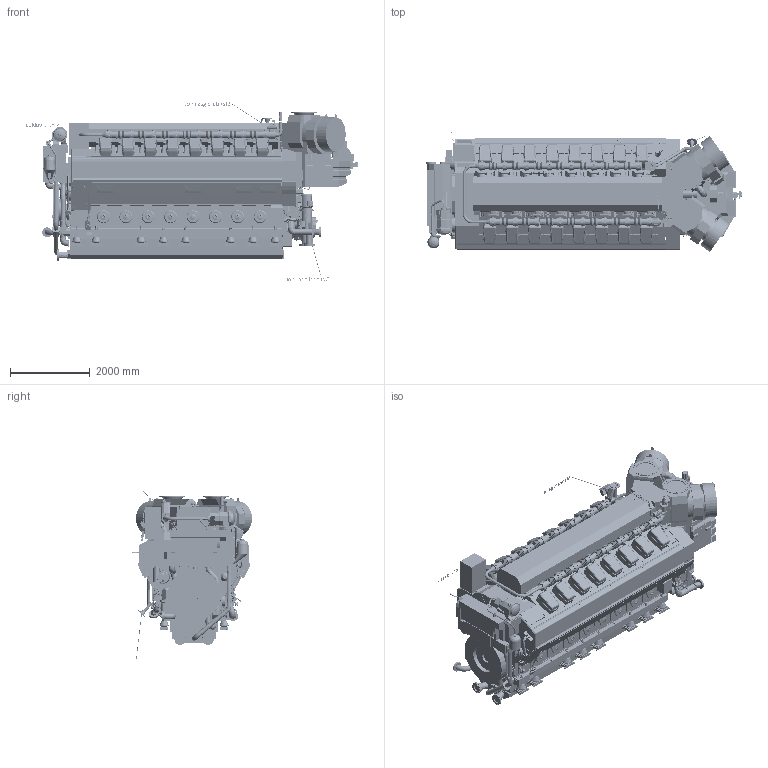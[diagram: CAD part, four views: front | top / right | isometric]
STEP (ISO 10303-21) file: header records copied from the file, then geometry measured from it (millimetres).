
FILE_DESCRIPTION(/* description */ (''),/* implementation_level */ '2;1');
FILE_NAME(/* name */ 'DAAF380017_A.stp',/* time_stamp */ '2022-01-12T13:51:49+02:00',/* author */ (''),/* organization */ (''),/* preprocessor_version */ 'ST-DEVELOPER v16.7',/* originating_system */ 'SIEMENS PLM Software NX 1915',/* authorisation */ '');
FILE_SCHEMA (('AUTOMOTIVE_DESIGN { 1 0 10303 214 3 1 1 1 }'));
Products named in the file (90): 001240134-A_STEEL PLATE; 001240134--_STEEL PLATE; PAAF090577--_OIL PIPE; PAAF093834--_LT-WATER SYSTEM; PABA089687--_Lube oil outlet _from oil sump_; PAAF074389--_END COVER; PAAF166694--_MOTOR; PAAF990034--_Lube oil connection; PABA001563--_Shut-down mechanism; PAAF245056--_LUBRICATING OIL PUMP; PAAF688036--_AIR VENT SYSTEM; PAAF078123--_COVER; PAAF087083--_LEAK FUEL SYSTEM; PAAF077589--_CONNECTING PIECE; PAAF087113--_LEAK FUEL SYSTEM; PAAF087138--_OIL PIPE; PAAF304653--_PUMP COVER; PABA034609--_Cylinder heads and multiducts 16V; PAAF078553--_HT-WATER SYSTEM; PAAF074393--_PUMP COVER; PAAF074410--_LUBE OIL MODULE; PAAF243666--_EQUIPMENT; PABA001817--_Covers for crankcase and camshaft; PAAF078077--_TURNING DEVICE; PABA002426--_Oil mist detector DN150_ Dr Horn DN125; PAAF087117--_LEAK FUEL SYSTEM; PAAF220774--_WATER PUMP; PABA156630--_Gas admission valves and bellows between cylinders; PAAF066763--_INSULATING BOX; PAAF243373--_AIR DISTRIBUTING PIECE; PAAF063635--_ENGINE BLOCK; PAAF087123--_LEAK FUEL PIPES; PABA034962--_End cover for camshaft B-bank; PAAF688045--_AIR VENT SYSTEM; PAAF247464--_FRAME; PAAF688051--_DRAIN PIPE; PABA002081--_Main cabinet 2nd gen unic; PABA173946--_Nitrogen gas pipe; PAAF093586--_STARTING AIR SYSTEM; PAAF450547--_CHARGE AIR SYSTEM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
Assembly tree (173 placements, depth 4):
  DAAF380017_A-Outline drawing
    PABA337919--_Mounting 16V_MODEL
      0031B006100-K_ROUND NUT_MODEL  x16
      PAAE073392-A_INTERMEDIATE PLATE_MODEL  x16
        001240134--_STEEL PLATE
      PAAF702810--_STUD  x16
      PAAF523057--  x16
      PAAF809612-A_FIXING PLATE_MODEL  x16
        001240134-A_STEEL PLATE
    PABA337775--_3D tags V-TCF
    PABA065852--_Gas feed pipe from roof
    PABA274494--_flywheel
    PABA337941--_W16V34DFC-TCF-DRY
      PAAF074480--_DRY SUMP
      PAAF087152--_OIL SUCTION PIPE
      PAAF295070--_INTERMEDIATE GEAR
      PAAF991059--_Pilot fuel line to hot box
      PABA076699--_Double wall gas vent system
      PAAF078635--_LT-WATER SYSTEM
      PABA068010--_Gas feed pipe between banks
      PABA052452--_Covers for air bottle_ noise reduction
      PABA033164--_Fastening equipment for charge air cooler
      PAAF852803--_PILOT FUEL LINE
      PAAF695507--_COVERS
      PAAF243370--_PRELUBRICATING PUMP
      PABA067993--_Double wall gas feed pipe
      PABA336739--_Cover  x8
      PABA201394--_Covers top shields
      PABA041040--_Drain pipe from air reciever_ driving end
      PAAF078535--_COOLING WATER PIPES
      PAAF689738--_CLEANING DEVICE
      PABA089633--_Gas vent system connecting flange
      PAAF238216--_CRANKSHAFT
      PAAF211478--_WASTE GATE _ BY-PASS
      PAAF078536--_DIPSTICK
      PAAF087128--_OIL PIPE
      PAAF078522--_FUEL PIPES
      PAAF087001--_WATER CONNECTIONS
      PABA337764--_Body
      PAAF078607--_HT-WATER PIPES
      PABA053131--_Covers in free end
      PAAF427671--_TURBOCHARGER
      PAAF688053--_AIR VENT SYSTEM
      PAAF695508--_WASTEGATE PIPE
      PAAF078239--_COVER
      PAAF078708--_ACTUATOR
      PAAF221638--_WATER PUMP
      PABA053684--_Covers in flywheel end
      PAAF066738--_INSULATION BOX
      PAAF077590--_THERMOSTATIC VALVE
      PABA311381--_Governor driver
      PABA052426--_Cylinder head covers 16V
      PAAF450547--_CHARGE AIR SYSTEM
      PAAF093586--_STARTING AIR SYSTEM
      PABA173946--_Nitrogen gas pipe
      PABA002081--_Main cabinet 2nd gen unic
      PAAF688051--_DRAIN PIPE
      PAAF247464--_FRAME
      PAAF688045--_AIR VENT SYSTEM
      PABA034962--_End cover for camshaft B-bank
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Bounding box: 8304.84 x 3000.14 x 4526.92 mm (x, y, z)
Volume: 31552023591.8 mm3; surface area: 385313882.7 mm2
Topology: 610 solids, 780 shells, 23063 faces, 56206 edges, 36069 vertices
Faces by surface type: plane 11928, cylinder 5938, bspline 2912, torus 964, extrusion 665, cone 641, revolution 9, sphere 6
Full cylindrical faces by diameter (mm): 0.107 x1, 3.3 x16, 6 x14, 6.2 x128, 8 x37, 8.5 x1, 8.993 x3, 9 x19, 9.685 x1, 9.69 x1, 10 x21, 11 x19, 11.908 x1, 11.995 x1, 12 x108, 12.6 x2, 13.2 x4, 13.6 x2, 14 x60, 14.596 x1, 15 x59, 15.5 x4, 15.6 x1, 15.7 x4, 16 x19, 16.376 x1, 16.658 x1, 17 x10, 17.5 x132, 17.997 x1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
Entity records: 742381 total; most frequent: CARTESIAN_POINT 278023, DIRECTION 91257, ORIENTED_EDGE 90954, EDGE_CURVE 45477, AXIS2_PLACEMENT_3D 32756, VERTEX_POINT 30641, EDGE_LOOP 26469, VECTOR 25736
